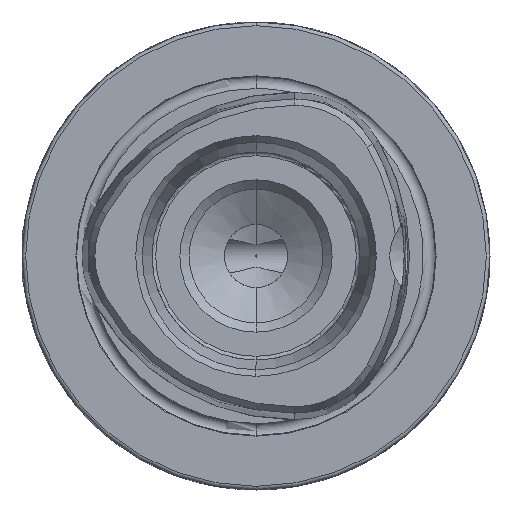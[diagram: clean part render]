
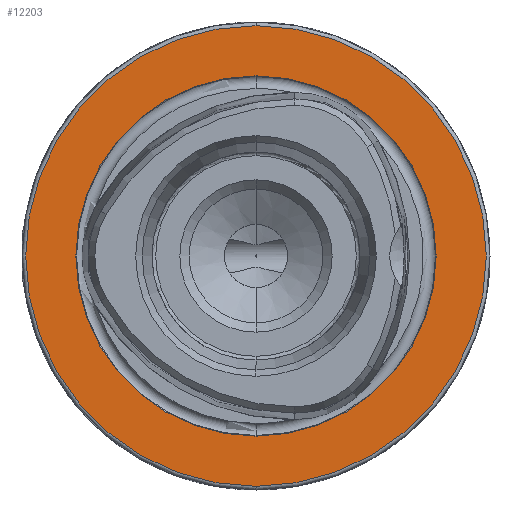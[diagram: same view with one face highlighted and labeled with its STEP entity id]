
A CAD part, left-side view. The second image highlights one B-rep face of the part: STEP entity #12203.
In plain terms, the highlighted planar face has unit normal (-1, 0, 0).
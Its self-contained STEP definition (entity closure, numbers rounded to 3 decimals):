
#22 = ORIENTED_EDGE ( 'NONE', *, *, #11312, .T. ) ;
#1318 = CARTESIAN_POINT ( 'NONE',  ( 0., 0., 31. ) ) ;
#1332 = CIRCLE ( 'NONE', #8382, 24.25 ) ;
#1549 = CARTESIAN_POINT ( 'NONE',  ( 0., 0., -24.25 ) ) ;
#2334 = DIRECTION ( 'NONE',  ( -1., 0., 0. ) ) ;
#2428 = CARTESIAN_POINT ( 'NONE',  ( 0., 0., 0. ) ) ;
#2489 = DIRECTION ( 'NONE',  ( 0., 0., 1. ) ) ;
#2661 = CARTESIAN_POINT ( 'NONE',  ( 0., 0., 0. ) ) ;
#2845 = AXIS2_PLACEMENT_3D ( 'NONE', #11453, #2334, #2489 ) ;
#3381 = VERTEX_POINT ( 'NONE', #1318 ) ;
#3484 = EDGE_CURVE ( 'NONE', #8508, #11154, #1332, .T. ) ;
#4325 = CIRCLE ( 'NONE', #11581, 31. ) ;
#4953 = EDGE_CURVE ( 'NONE', #11154, #8508, #13736, .T. ) ;
#5346 = EDGE_CURVE ( 'NONE', #3381, #11719, #8310, .T. ) ;
#5399 = PLANE ( 'NONE',  #6435 ) ;
#5535 = FACE_BOUND ( 'NONE', #8291, .T. ) ;
#6435 = AXIS2_PLACEMENT_3D ( 'NONE', #10975, #8930, #11080 ) ;
#6793 = CARTESIAN_POINT ( 'NONE',  ( 0., 0., 24.25 ) ) ;
#7188 = DIRECTION ( 'NONE',  ( -1., 0., 0. ) ) ;
#7461 = FACE_OUTER_BOUND ( 'NONE', #12024, .T. ) ;
#8291 = EDGE_LOOP ( 'NONE', ( #11283, #13224 ) ) ;
#8310 = CIRCLE ( 'NONE', #2845, 31. ) ;
#8382 = AXIS2_PLACEMENT_3D ( 'NONE', #10178, #12196, #9008 ) ;
#8508 = VERTEX_POINT ( 'NONE', #1549 ) ;
#8930 = DIRECTION ( 'NONE',  ( 1., 0., 0. ) ) ;
#9008 = DIRECTION ( 'NONE',  ( 0., 0., 1. ) ) ;
#9435 = AXIS2_PLACEMENT_3D ( 'NONE', #2428, #10301, #10352 ) ;
#10178 = CARTESIAN_POINT ( 'NONE',  ( 0., 0., 0. ) ) ;
#10301 = DIRECTION ( 'NONE',  ( -1., 0., 0. ) ) ;
#10352 = DIRECTION ( 'NONE',  ( 0., 0., 1. ) ) ;
#10575 = DIRECTION ( 'NONE',  ( 0., 0., 1. ) ) ;
#10975 = CARTESIAN_POINT ( 'NONE',  ( 0., 24.25, 0. ) ) ;
#10991 = CARTESIAN_POINT ( 'NONE',  ( 0., 0., -31. ) ) ;
#11080 = DIRECTION ( 'NONE',  ( 0., 0., -1. ) ) ;
#11154 = VERTEX_POINT ( 'NONE', #6793 ) ;
#11283 = ORIENTED_EDGE ( 'NONE', *, *, #4953, .F. ) ;
#11312 = EDGE_CURVE ( 'NONE', #11719, #3381, #4325, .T. ) ;
#11453 = CARTESIAN_POINT ( 'NONE',  ( 0., 0., 0. ) ) ;
#11581 = AXIS2_PLACEMENT_3D ( 'NONE', #2661, #7188, #10575 ) ;
#11719 = VERTEX_POINT ( 'NONE', #10991 ) ;
#11780 = ORIENTED_EDGE ( 'NONE', *, *, #5346, .T. ) ;
#12024 = EDGE_LOOP ( 'NONE', ( #11780, #22 ) ) ;
#12196 = DIRECTION ( 'NONE',  ( -1., 0., 0. ) ) ;
#12203 = ADVANCED_FACE ( 'NONE', ( #5535, #7461 ), #5399, .F. ) ;
#13224 = ORIENTED_EDGE ( 'NONE', *, *, #3484, .F. ) ;
#13736 = CIRCLE ( 'NONE', #9435, 24.25 ) ;
